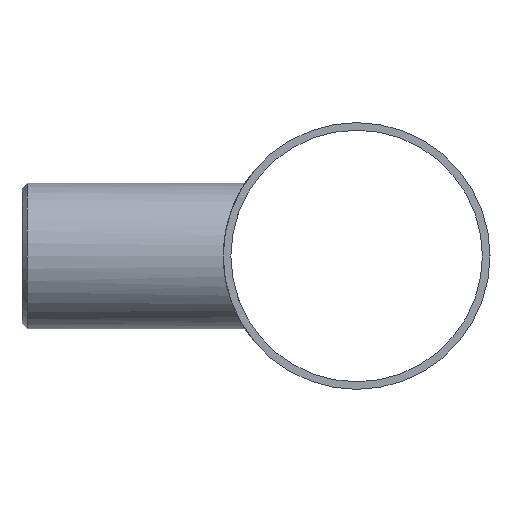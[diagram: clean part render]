
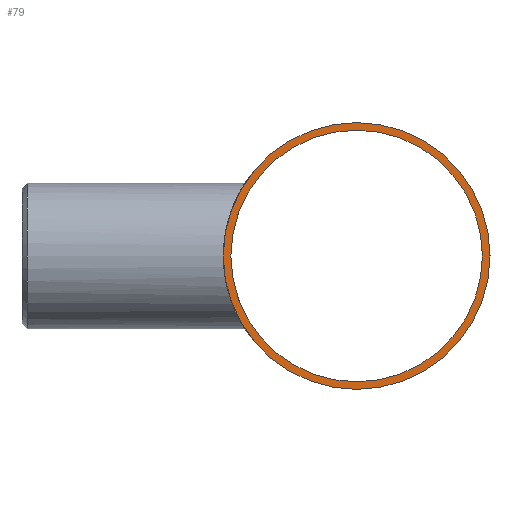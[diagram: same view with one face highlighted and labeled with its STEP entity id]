
A CAD part, left-side view. The second image highlights one B-rep face of the part: STEP entity #79.
In plain terms, the highlighted planar face has unit normal (-1, 0, 0).
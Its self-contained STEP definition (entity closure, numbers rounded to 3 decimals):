
#79 = ADVANCED_FACE( '', ( #102, #103 ), #104, .F. );
#102 = FACE_OUTER_BOUND( '', #146, .T. );
#103 = FACE_BOUND( '', #147, .T. );
#104 = PLANE( '', #148 );
#146 = EDGE_LOOP( '', ( #198 ) );
#147 = EDGE_LOOP( '', ( #199 ) );
#148 = AXIS2_PLACEMENT_3D( '', #200, #201, #202 );
#198 = ORIENTED_EDGE( '', *, *, #256, .F. );
#199 = ORIENTED_EDGE( '', *, *, #257, .T. );
#200 = CARTESIAN_POINT( '', ( -70., 0., 0. ) );
#201 = DIRECTION( '', ( 1., 0., 0. ) );
#202 = DIRECTION( '', ( 0., 0., -1. ) );
#256 = EDGE_CURVE( '', #277, #277, #278, .T. );
#257 = EDGE_CURVE( '', #279, #279, #280, .T. );
#277 = VERTEX_POINT( '', #408 );
#278 = CIRCLE( '', #409, 26.5 );
#279 = VERTEX_POINT( '', #410 );
#280 = CIRCLE( '', #411, 25. );
#408 = CARTESIAN_POINT( '', ( -70., 0., -26.5 ) );
#409 = AXIS2_PLACEMENT_3D( '', #536, #537, #538 );
#410 = CARTESIAN_POINT( '', ( -70., 0., -25. ) );
#411 = AXIS2_PLACEMENT_3D( '', #539, #540, #541 );
#536 = CARTESIAN_POINT( '', ( -70., 0., 0. ) );
#537 = DIRECTION( '', ( 1., 0., 0. ) );
#538 = DIRECTION( '', ( 0., 0., -1. ) );
#539 = CARTESIAN_POINT( '', ( -70., 0., 0. ) );
#540 = DIRECTION( '', ( 1., 0., 0. ) );
#541 = DIRECTION( '', ( 0., 0., -1. ) );
